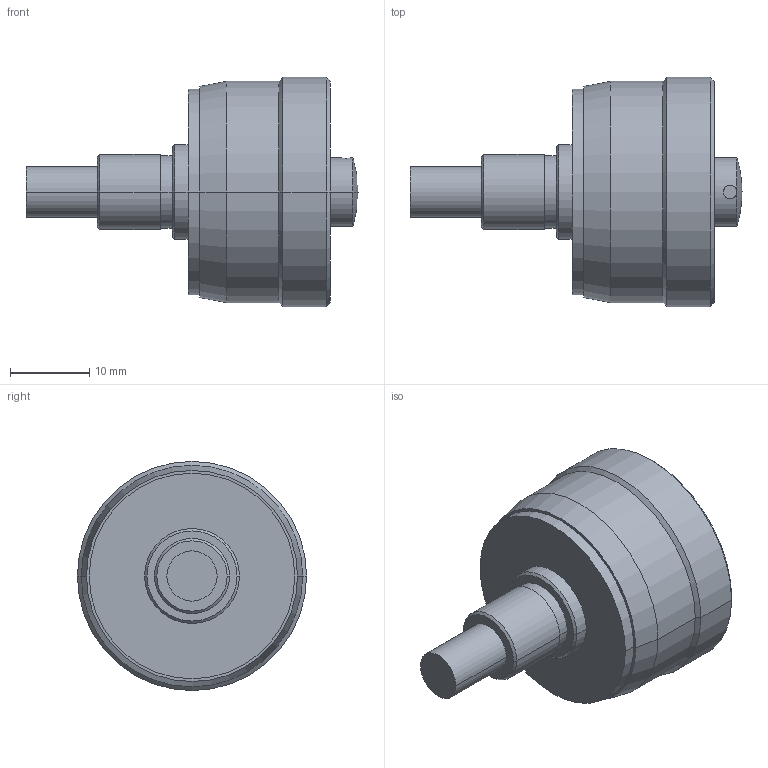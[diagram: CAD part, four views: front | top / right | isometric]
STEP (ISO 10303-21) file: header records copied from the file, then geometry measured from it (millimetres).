
FILE_DESCRIPTION(('Creo Elements/Direct Modeling STEP Export'),'2;1');
FILE_NAME('148-305_MHC1-6.5G.stp','2014-11-19T14:09:22',(''),(''),'Creo Elements/Direct Modeling STEP processor for AP214 (Solid Model)','Creo Elements/Direct Modeling 18.1B 29-Sep-2012 (C) Parametric Technology GmbH','');
FILE_SCHEMA(('AUTOMOTIVE_DESIGN { 1 0 10303 214 1 1 1 1 }'));
Length unit declared in the file: millimetre
Products named in the file (2): 148-305_MHC1-6_5G.prt; 148-305_MHC1-6_5G.stp
Assembly tree (1 placements, depth 2):
  148-305_MHC1-6_5G.stp
    148-305_MHC1-6_5G.prt
Bounding box: 42 x 29 x 29 mm (x, y, z)
Volume: 12490.2 mm3; surface area: 3427.6 mm2
Topology: 1 solids, 1 shells, 38 faces, 77 edges, 45 vertices
Faces by surface type: cylinder 18, cone 10, plane 8, sphere 2
Entity records: 958 total; most frequent: CARTESIAN_POINT 175, DIRECTION 156, ORIENTED_EDGE 150, EDGE_CURVE 75, AXIS2_PLACEMENT_3D 64, VERTEX_POINT 45, EDGE_LOOP 44, FACE_OUTER_BOUND 38
